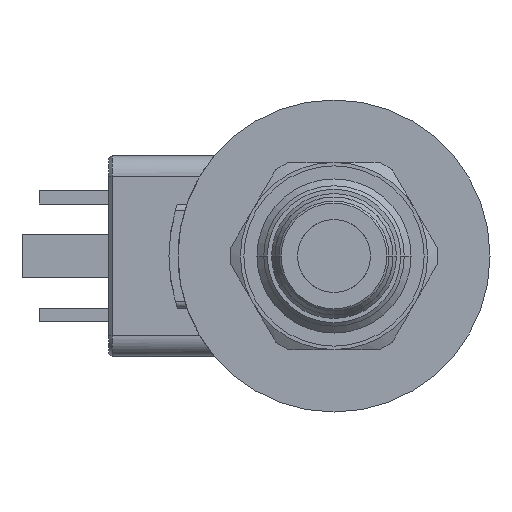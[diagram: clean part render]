
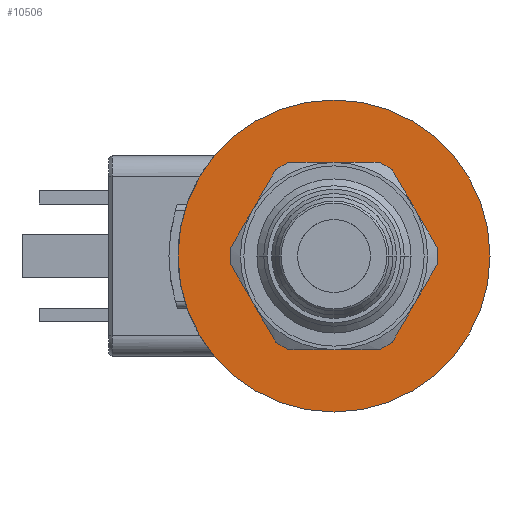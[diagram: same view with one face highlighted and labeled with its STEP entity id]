
A CAD part, left-side view. The second image highlights one B-rep face of the part: STEP entity #10506.
In plain terms, the highlighted planar face has unit normal (-1, 0, 0).
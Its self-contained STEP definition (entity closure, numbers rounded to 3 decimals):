
#8961=CARTESIAN_POINT('',(0.,0.,0.));
#8962=DIRECTION('',(-1.,0.,0.));
#8963=DIRECTION('',(0.,1.,0.));
#8964=AXIS2_PLACEMENT_3D('',#8961,#8962,#8963);
#8969=CARTESIAN_POINT('',(0.,0.,0.));
#8970=DIRECTION('',(1.,0.,0.));
#8971=DIRECTION('',(0.,1.,0.));
#8972=AXIS2_PLACEMENT_3D('',#8969,#8970,#8971);
#8977=CARTESIAN_POINT('',(0.,0.,0.));
#8978=DIRECTION('',(1.,0.,0.));
#8979=DIRECTION('',(0.,1.,0.));
#8980=AXIS2_PLACEMENT_3D('',#8977,#8978,#8979);
#8985=CARTESIAN_POINT('',(0.,0.,0.));
#8986=DIRECTION('',(1.,0.,0.));
#8987=DIRECTION('',(0.,-1.,0.));
#8988=AXIS2_PLACEMENT_3D('',#8985,#8986,#8987);
#10287=CARTESIAN_POINT('',(0.,-22.5,0.));
#10289=VERTEX_POINT('',#10287);
#10386=CARTESIAN_POINT('',(0.,22.5,0.));
#10387=VERTEX_POINT('',#10386);
#10477=CARTESIAN_POINT('',(0.,13.,0.));
#10478=CARTESIAN_POINT('',(0.,-13.,0.));
#10479=VERTEX_POINT('',#10477);
#10480=VERTEX_POINT('',#10478);
#10489=CARTESIAN_POINT('',(0.,0.,0.));
#10490=DIRECTION('',(1.,0.,0.));
#10491=DIRECTION('',(0.,-1.,0.));
#10492=AXIS2_PLACEMENT_3D('',#10489,#10490,#10491);
#10493=PLANE('',#10492);
#10495=ORIENTED_EDGE('',*,*,#10494,.F.);
#10497=ORIENTED_EDGE('',*,*,#10496,.T.);
#10498=EDGE_LOOP('',(#10495,#10497));
#10499=FACE_OUTER_BOUND('',#10498,.F.);
#10501=ORIENTED_EDGE('',*,*,#10500,.F.);
#10503=ORIENTED_EDGE('',*,*,#10502,.F.);
#10504=EDGE_LOOP('',(#10501,#10503));
#10505=FACE_BOUND('',#10504,.F.);
#8965=CIRCLE('',#8964,22.5);
#8973=CIRCLE('',#8972,22.5);
#8981=CIRCLE('',#8980,13.);
#8989=CIRCLE('',#8988,13.);
#10494=EDGE_CURVE('',#10387,#10289,#8965,.T.);
#10496=EDGE_CURVE('',#10387,#10289,#8973,.T.);
#10500=EDGE_CURVE('',#10479,#10480,#8981,.T.);
#10502=EDGE_CURVE('',#10480,#10479,#8989,.T.);
#10506=ADVANCED_FACE('',(#10499,#10505),#10493,.F.);
